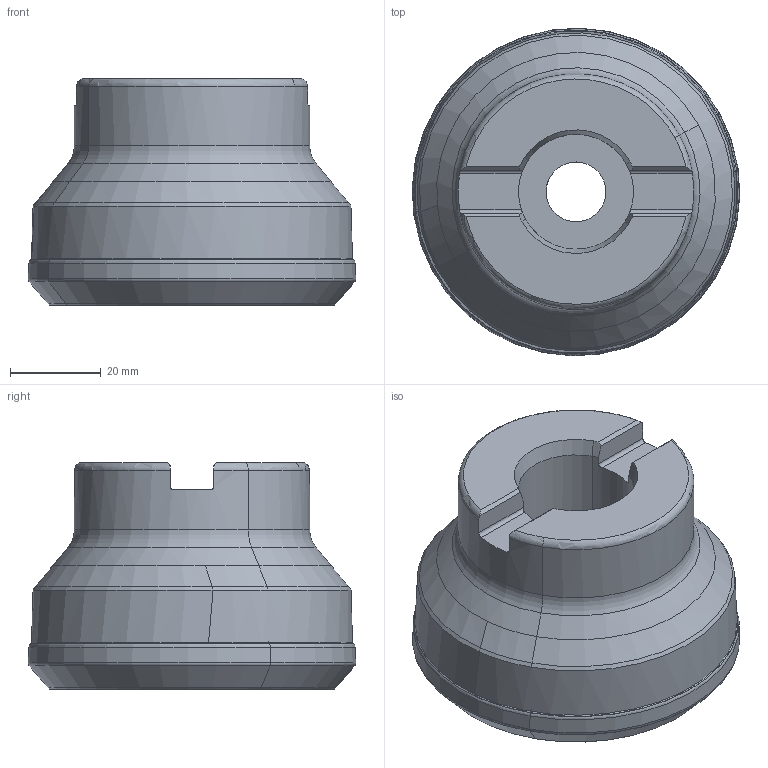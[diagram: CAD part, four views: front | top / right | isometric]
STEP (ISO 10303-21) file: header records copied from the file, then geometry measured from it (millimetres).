
FILE_DESCRIPTION(('CATIA V5 STEP','CAx-IF Rec.Pracs.--- Model Styling and Organization---1.2---2011-12-15'),'2;1');
FILE_NAME('N:\data\isr\design\special1\users\NATALY_B\Tal\NPA\3106853\IQ845 FSYD063-05-25.4-R07-L.stp','2016-06-06T09:31:04+00:00',('none'),('none'),'CATIA Version 5 Release 21 SP 5 (IN-10)','CATIA V5 STEP AP214','none');
FILE_SCHEMA(('AUTOMOTIVE_DESIGN { 1 0 10303 214 1 1 1 1 }'));
Length unit declared in the file: millimetre
Products named in the file (1): IQ845 FSYD063-05-25.4-R07
Bounding box: 72.32 x 72.32 x 50 mm (x, y, z)
Volume: 145069.4 mm3; surface area: 26868.1 mm2
Topology: 2 solids, 2 shells, 119 faces, 292 edges, 177 vertices
Faces by surface type: revolution 70, plane 15, cylinder 12, torus 12, cone 10
Entity records: 4185 total; most frequent: CARTESIAN_POINT 1727, ORIENTED_EDGE 532, DIRECTION 308, EDGE_CURVE 266, B_SPLINE_CURVE_WITH_KNOTS 188, AXIS2_PLACEMENT_3D 161, VERTEX_POINT 150, CIRCLE 128
